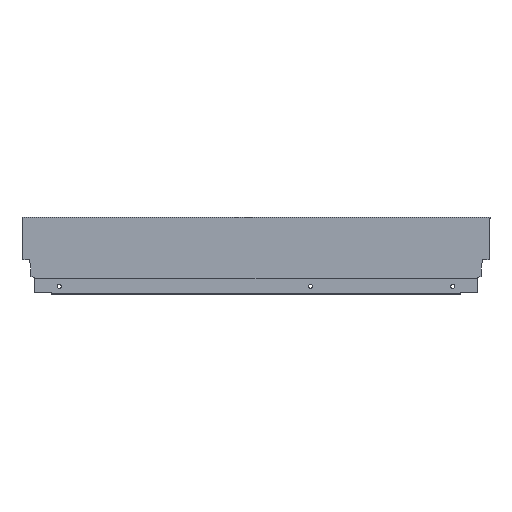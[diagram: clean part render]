
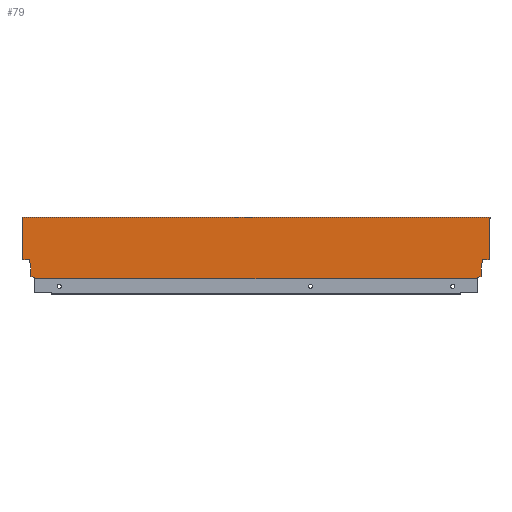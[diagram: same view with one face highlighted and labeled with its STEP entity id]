
A CAD part, top view. The second image highlights one B-rep face of the part: STEP entity #79.
In plain terms, the highlighted planar face has unit normal (0, 0, 1).
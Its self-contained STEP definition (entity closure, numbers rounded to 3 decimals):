
#4 = VERTEX_POINT ( 'NONE', #7 ) ;
#7 = CARTESIAN_POINT ( 'NONE',  ( 0., 21.2, 7.5 ) ) ;
#14 = VERTEX_POINT ( 'NONE', #415 ) ;
#19 = VERTEX_POINT ( 'NONE', #410 ) ;
#25 = VERTEX_POINT ( 'NONE', #404 ) ;
#26 = VERTEX_POINT ( 'NONE', #403 ) ;
#29 = VERTEX_POINT ( 'NONE', #400 ) ;
#34 = VERTEX_POINT ( 'NONE', #395 ) ;
#35 = VERTEX_POINT ( 'NONE', #394 ) ;
#36 = VERTEX_POINT ( 'NONE', #393 ) ;
#39 = VERTEX_POINT ( 'NONE', #390 ) ;
#42 = VERTEX_POINT ( 'NONE', #387 ) ;
#49 = VERTEX_POINT ( 'NONE', #380 ) ;
#53 = VERTEX_POINT ( 'NONE', #376 ) ;
#57 = VERTEX_POINT ( 'NONE', #372 ) ;
#79 = ADVANCED_FACE ( 'NONE', ( #940 ), #480, .T. ) ;
#131 = EDGE_CURVE ( 'NONE', #14, #4, #1677, .T. ) ;
#230 = EDGE_CURVE ( 'NONE', #49, #53, #1361, .T. ) ;
#231 = EDGE_CURVE ( 'NONE', #36, #34, #1363, .T. ) ;
#232 = EDGE_CURVE ( 'NONE', #53, #14, #1365, .T. ) ;
#233 = EDGE_CURVE ( 'NONE', #34, #57, #1367, .T. ) ;
#234 = EDGE_CURVE ( 'NONE', #4, #29, #1369, .T. ) ;
#235 = EDGE_CURVE ( 'NONE', #19, #26, #1371, .T. ) ;
#236 = EDGE_CURVE ( 'NONE', #29, #39, #1373, .T. ) ;
#237 = EDGE_CURVE ( 'NONE', #434, #458, #1375, .T. ) ;
#238 = EDGE_CURVE ( 'NONE', #39, #36, #1377, .T. ) ;
#239 = EDGE_CURVE ( 'NONE', #441, #49, #1379, .T. ) ;
#240 = EDGE_CURVE ( 'NONE', #26, #434, #1344, .T. ) ;
#241 = EDGE_CURVE ( 'NONE', #25, #35, #1383, .T. ) ;
#242 = EDGE_CURVE ( 'NONE', #42, #35, #1385, .T. ) ;
#243 = EDGE_CURVE ( 'NONE', #459, #42, #1354, .T. ) ;
#244 = EDGE_CURVE ( 'NONE', #459, #441, #1389, .T. ) ;
#245 = EDGE_CURVE ( 'NONE', #19, #57, #1391, .T. ) ;
#248 = EDGE_CURVE ( 'NONE', #458, #25, #1382, .T. ) ;
#278 = AXIS2_PLACEMENT_3D ( 'NONE', #483, #489, #490 ) ;
#372 = CARTESIAN_POINT ( 'NONE',  ( -13.004, 0., 7.5 ) ) ;
#376 = CARTESIAN_POINT ( 'NONE',  ( 1., 66.5, 7.5 ) ) ;
#380 = CARTESIAN_POINT ( 'NONE',  ( 1., 68., 7.5 ) ) ;
#387 = CARTESIAN_POINT ( 'NONE',  ( -513., 66.5, 7.5 ) ) ;
#390 = CARTESIAN_POINT ( 'NONE',  ( -8.9, 10.765, 7.5 ) ) ;
#393 = CARTESIAN_POINT ( 'NONE',  ( -8.9, 2.64, 7.5 ) ) ;
#394 = CARTESIAN_POINT ( 'NONE',  ( -513., 21.2, 7.5 ) ) ;
#395 = CARTESIAN_POINT ( 'NONE',  ( -13.004, 1.146, 7.5 ) ) ;
#400 = CARTESIAN_POINT ( 'NONE',  ( -7.06, 21.2, 7.5 ) ) ;
#403 = CARTESIAN_POINT ( 'NONE',  ( -499.996, 1.146, 7.5 ) ) ;
#404 = CARTESIAN_POINT ( 'NONE',  ( -505.94, 21.2, 7.5 ) ) ;
#410 = CARTESIAN_POINT ( 'NONE',  ( -499.996, 0., 7.5 ) ) ;
#415 = CARTESIAN_POINT ( 'NONE',  ( 0., 66.5, 7.5 ) ) ;
#434 = VERTEX_POINT ( 'NONE', #1003 ) ;
#441 = VERTEX_POINT ( 'NONE', #1010 ) ;
#458 = VERTEX_POINT ( 'NONE', #1027 ) ;
#459 = VERTEX_POINT ( 'NONE', #1028 ) ;
#480 = PLANE ( 'NONE',  #278 ) ;
#483 = CARTESIAN_POINT ( 'NONE',  ( -513., 0., 7.5 ) ) ;
#489 = DIRECTION ( 'NONE',  ( 0., 0., 1. ) ) ;
#490 = DIRECTION ( 'NONE',  ( 1., 0., 0. ) ) ;
#638 = CARTESIAN_POINT ( 'NONE',  ( 0., 0., 7.5 ) ) ;
#648 = DIRECTION ( 'NONE',  ( 0., -1., 0. ) ) ;
#848 = CARTESIAN_POINT ( 'NONE',  ( -504.1, 2.64, 7.5 ) ) ;
#854 = CARTESIAN_POINT ( 'NONE',  ( 1., 68., 7.5 ) ) ;
#855 = DIRECTION ( 'NONE',  ( 0., -1., 0. ) ) ;
#856 = CARTESIAN_POINT ( 'NONE',  ( -8.9, 2.64, 7.5 ) ) ;
#857 = DIRECTION ( 'NONE',  ( -0.94, -0.342, 0. ) ) ;
#858 = CARTESIAN_POINT ( 'NONE',  ( 1., 66.5, 7.5 ) ) ;
#859 = DIRECTION ( 'NONE',  ( -1., 0., 0. ) ) ;
#860 = CARTESIAN_POINT ( 'NONE',  ( -13.004, 1.146, 7.5 ) ) ;
#861 = DIRECTION ( 'NONE',  ( 0., -1., 0. ) ) ;
#862 = CARTESIAN_POINT ( 'NONE',  ( 0., 21.2, 7.5 ) ) ;
#863 = DIRECTION ( 'NONE',  ( -1., 0., 0. ) ) ;
#864 = CARTESIAN_POINT ( 'NONE',  ( -499.996, 1.146, 7.5 ) ) ;
#865 = DIRECTION ( 'NONE',  ( 0., 1., 0. ) ) ;
#866 = CARTESIAN_POINT ( 'NONE',  ( -7.06, 21.2, 7.5 ) ) ;
#867 = DIRECTION ( 'NONE',  ( -0.174, -0.985, 0. ) ) ;
#868 = CARTESIAN_POINT ( 'NONE',  ( -504.1, 10.765, 7.5 ) ) ;
#869 = DIRECTION ( 'NONE',  ( 0., 1., 0. ) ) ;
#870 = CARTESIAN_POINT ( 'NONE',  ( -8.9, 10.765, 7.5 ) ) ;
#871 = DIRECTION ( 'NONE',  ( 0., -1., 0. ) ) ;
#872 = CARTESIAN_POINT ( 'NONE',  ( -513., 68., 7.5 ) ) ;
#873 = DIRECTION ( 'NONE',  ( 1., 0., 0. ) ) ;
#874 = CARTESIAN_POINT ( 'NONE',  ( -514., 66.5, 7.5 ) ) ;
#875 = DIRECTION ( 'NONE',  ( -0.94, 0.342, 0. ) ) ;
#876 = CARTESIAN_POINT ( 'NONE',  ( -518., 21.2, 7.5 ) ) ;
#877 = DIRECTION ( 'NONE',  ( -1., 0., 0. ) ) ;
#879 = CARTESIAN_POINT ( 'NONE',  ( -513., 0., 7.5 ) ) ;
#880 = DIRECTION ( 'NONE',  ( 0., -1., 0. ) ) ;
#882 = DIRECTION ( 'NONE',  ( 1., 0., 0. ) ) ;
#883 = CARTESIAN_POINT ( 'NONE',  ( -514., 66.5, 7.5 ) ) ;
#884 = DIRECTION ( 'NONE',  ( 0., 1., 0. ) ) ;
#885 = CARTESIAN_POINT ( 'NONE',  ( -513., 0., 7.5 ) ) ;
#886 = DIRECTION ( 'NONE',  ( 1., 0., 0. ) ) ;
#940 = FACE_OUTER_BOUND ( 'NONE', #1212, .T. ) ;
#1003 = CARTESIAN_POINT ( 'NONE',  ( -504.1, 2.64, 7.5 ) ) ;
#1010 = CARTESIAN_POINT ( 'NONE',  ( -514., 68., 7.5 ) ) ;
#1027 = CARTESIAN_POINT ( 'NONE',  ( -504.1, 10.765, 7.5 ) ) ;
#1028 = CARTESIAN_POINT ( 'NONE',  ( -514., 66.5, 7.5 ) ) ;
#1212 = EDGE_LOOP ( 'NONE', ( #1534, #1535, #1536, #1537, #1538, #1539, #1540, #1541, #1542, #1543, #1544, #1545, #1546, #1547, #1548, #1549, #1550, #1551 ) ) ;
#1344 = LINE ( 'NONE', #848, #1381 ) ;
#1354 = LINE ( 'NONE', #874, #1387 ) ;
#1356 = VECTOR ( 'NONE', #1457, 1000. ) ;
#1361 = LINE ( 'NONE', #854, #1362 ) ;
#1362 = VECTOR ( 'NONE', #855, 1000. ) ;
#1363 = LINE ( 'NONE', #856, #1364 ) ;
#1364 = VECTOR ( 'NONE', #857, 1000. ) ;
#1365 = LINE ( 'NONE', #858, #1366 ) ;
#1366 = VECTOR ( 'NONE', #859, 1000. ) ;
#1367 = LINE ( 'NONE', #860, #1368 ) ;
#1368 = VECTOR ( 'NONE', #861, 1000. ) ;
#1369 = LINE ( 'NONE', #862, #1370 ) ;
#1370 = VECTOR ( 'NONE', #863, 1000. ) ;
#1371 = LINE ( 'NONE', #864, #1372 ) ;
#1372 = VECTOR ( 'NONE', #865, 1000. ) ;
#1373 = LINE ( 'NONE', #866, #1374 ) ;
#1374 = VECTOR ( 'NONE', #867, 1000. ) ;
#1375 = LINE ( 'NONE', #868, #1376 ) ;
#1376 = VECTOR ( 'NONE', #869, 1000. ) ;
#1377 = LINE ( 'NONE', #870, #1378 ) ;
#1378 = VECTOR ( 'NONE', #871, 1000. ) ;
#1379 = LINE ( 'NONE', #872, #1380 ) ;
#1380 = VECTOR ( 'NONE', #873, 1000. ) ;
#1381 = VECTOR ( 'NONE', #875, 1000. ) ;
#1382 = LINE ( 'NONE', #1455, #1356 ) ;
#1383 = LINE ( 'NONE', #876, #1384 ) ;
#1384 = VECTOR ( 'NONE', #877, 1000. ) ;
#1385 = LINE ( 'NONE', #879, #1386 ) ;
#1386 = VECTOR ( 'NONE', #880, 1000. ) ;
#1387 = VECTOR ( 'NONE', #882, 1000. ) ;
#1389 = LINE ( 'NONE', #883, #1390 ) ;
#1390 = VECTOR ( 'NONE', #884, 1000. ) ;
#1391 = LINE ( 'NONE', #885, #1392 ) ;
#1392 = VECTOR ( 'NONE', #886, 1000. ) ;
#1455 = CARTESIAN_POINT ( 'NONE',  ( -505.94, 21.2, 7.5 ) ) ;
#1457 = DIRECTION ( 'NONE',  ( -0.174, 0.985, 0. ) ) ;
#1534 = ORIENTED_EDGE ( 'NONE', *, *, #239, .F. ) ;
#1535 = ORIENTED_EDGE ( 'NONE', *, *, #244, .F. ) ;
#1536 = ORIENTED_EDGE ( 'NONE', *, *, #243, .T. ) ;
#1537 = ORIENTED_EDGE ( 'NONE', *, *, #242, .T. ) ;
#1538 = ORIENTED_EDGE ( 'NONE', *, *, #241, .F. ) ;
#1539 = ORIENTED_EDGE ( 'NONE', *, *, #248, .F. ) ;
#1540 = ORIENTED_EDGE ( 'NONE', *, *, #237, .F. ) ;
#1541 = ORIENTED_EDGE ( 'NONE', *, *, #240, .F. ) ;
#1542 = ORIENTED_EDGE ( 'NONE', *, *, #235, .F. ) ;
#1543 = ORIENTED_EDGE ( 'NONE', *, *, #245, .T. ) ;
#1544 = ORIENTED_EDGE ( 'NONE', *, *, #233, .F. ) ;
#1545 = ORIENTED_EDGE ( 'NONE', *, *, #231, .F. ) ;
#1546 = ORIENTED_EDGE ( 'NONE', *, *, #238, .F. ) ;
#1547 = ORIENTED_EDGE ( 'NONE', *, *, #236, .F. ) ;
#1548 = ORIENTED_EDGE ( 'NONE', *, *, #234, .F. ) ;
#1549 = ORIENTED_EDGE ( 'NONE', *, *, #131, .F. ) ;
#1550 = ORIENTED_EDGE ( 'NONE', *, *, #232, .F. ) ;
#1551 = ORIENTED_EDGE ( 'NONE', *, *, #230, .F. ) ;
#1574 = VECTOR ( 'NONE', #648, 1000. ) ;
#1677 = LINE ( 'NONE', #638, #1574 ) ;
